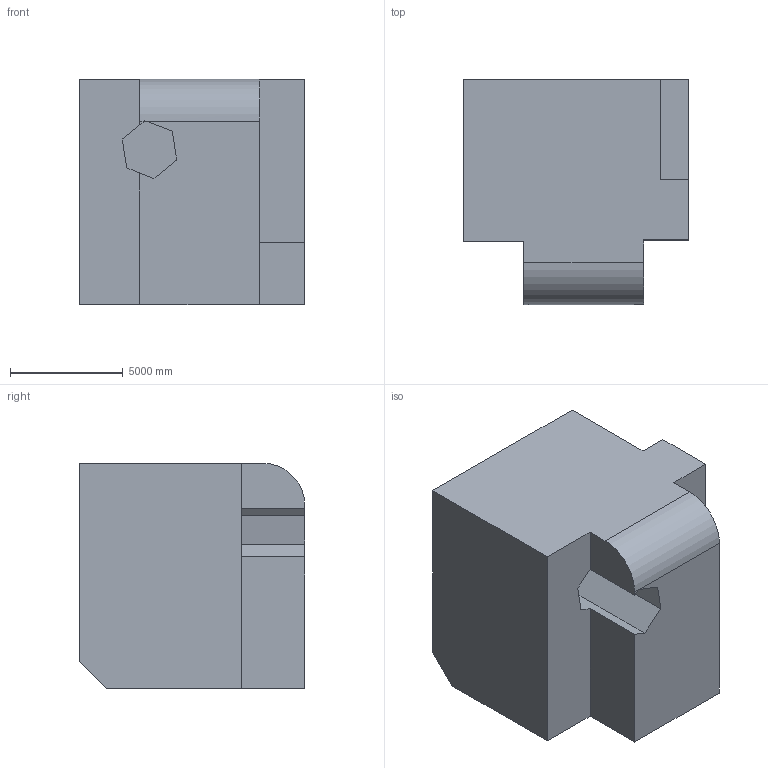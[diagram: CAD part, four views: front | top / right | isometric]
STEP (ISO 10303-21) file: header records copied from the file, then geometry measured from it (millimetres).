
FILE_DESCRIPTION (( 'STEP AP203' ), '1' );
FILE_NAME ('1692.STEP', '2022-08-19T11:46:25', ( 'user' ), ( '' ), 'SwSTEP 2.0', 'SolidWorks 2021', '' );
FILE_SCHEMA (( 'CONFIG_CONTROL_DESIGN' ));
Length unit declared in the file: centimetre
Products named in the file (1): 1692
Bounding box: 10000 x 10000 x 10000 mm (x, y, z)
Volume: 802355433619.9 mm3; surface area: 639435943.6 mm2
Topology: 1 solids, 1 shells, 28 faces, 75 edges, 50 vertices
Faces by surface type: plane 27, cylinder 1
Entity records: 938 total; most frequent: CARTESIAN_POINT 160, ORIENTED_EDGE 150, DIRECTION 133, EDGE_CURVE 75, VECTOR 71, LINE 71, VERTEX_POINT 50, AXIS2_PLACEMENT_3D 31
